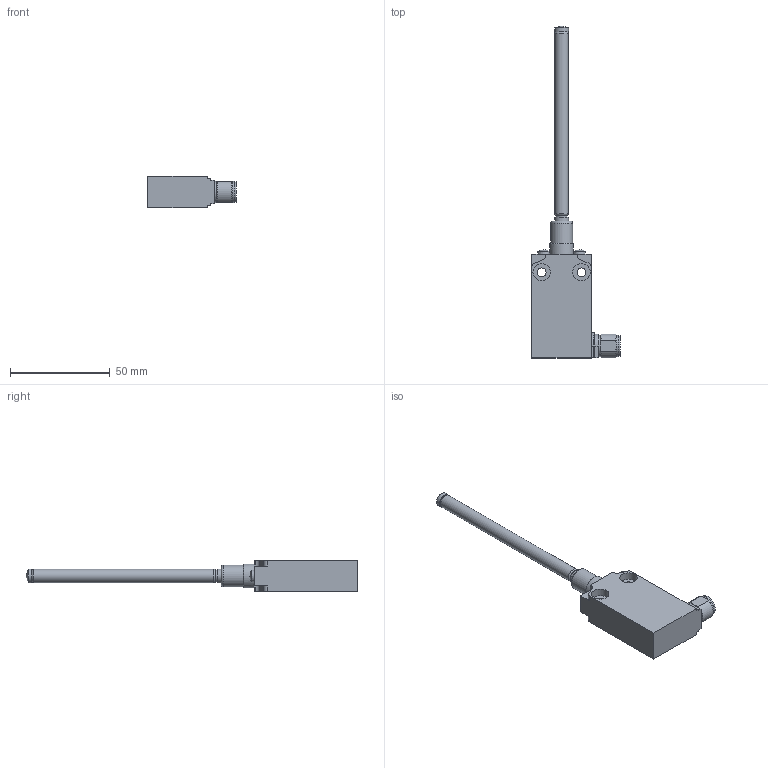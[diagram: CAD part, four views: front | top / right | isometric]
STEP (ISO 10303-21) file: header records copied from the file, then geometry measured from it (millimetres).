
FILE_DESCRIPTION(/* description */ (''),/* implementation_level */ '2;1');
FILE_NAME(/* name */ 'C:\Users\servizio.tecnico\Desktop\CADENAS\3D\EP1_STP\STP_EP1_G93M.stp',/* time_stamp */ '2017-09-04T11:58:15+02:00',/* author */ ('servizio.tecnico'),/* organization */ (''),/* preprocessor_version */ 'ST-DEVELOPER v16.1',/* originating_system */ 'Autodesk Inventor 2016',/* authorisation */ '');
FILE_SCHEMA (('AUTOMOTIVE_DESIGN { 1 0 10303 214 3 1 1 }'));
Length unit declared in the file: millimetre
Products named in the file (3): Product; EP1G93-M; BASE ASSI 
Assembly tree (2 placements, depth 3):
  BASE ASSI 
    EP1G93-M
      Product
Bounding box: 44.5 x 166.7 x 16 mm (x, y, z)
Volume: 30389.2 mm3; surface area: 10421.2 mm2
Topology: 3 solids, 3 shells, 112 faces, 275 edges, 177 vertices
Faces by surface type: plane 54, cylinder 37, cone 13, torus 6, sphere 2
Full cylindrical faces by diameter (mm): 4.4 x2, 5.9 x1, 6.8 x1, 7 x2, 8.7 x4, 10.3 x1, 10.6 x2, 11 x1, 12 x1
Entity records: 3189 total; most frequent: DIRECTION 554, CARTESIAN_POINT 548, ORIENTED_EDGE 470, EDGE_CURVE 235, AXIS2_PLACEMENT_3D 218, VERTEX_POINT 164, EDGE_LOOP 151, LINE 118
